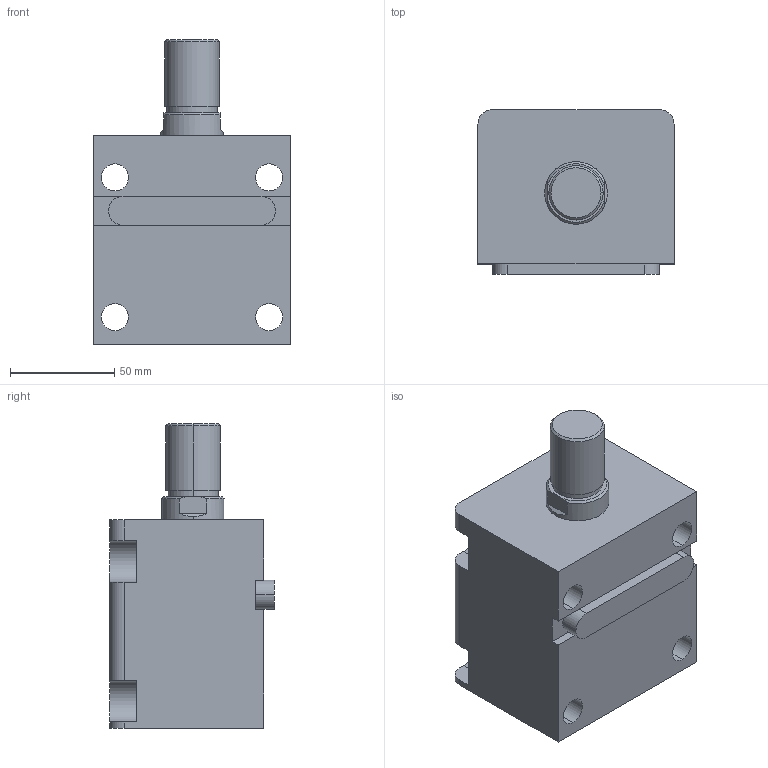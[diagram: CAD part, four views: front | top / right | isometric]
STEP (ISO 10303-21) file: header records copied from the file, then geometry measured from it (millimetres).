
FILE_DESCRIPTION (( 'STEP AP203' ), '1' );
FILE_NAME ('HTB-LA50-40W.STEP', '2019-10-09T07:09:16', ( '微软用户' ), ( '微软中国' ), 'SwSTEP 2.0', 'SolidWorks 2012', '' );
FILE_SCHEMA (( 'CONFIG_CONTROL_DESIGN' ));
Length unit declared in the file: millimetre
Products named in the file (4): HTB-LA50-40W活塞杆; HTB-LA50-40掛极; HTB-LA50-瑩; HTB-LA50-40W
Assembly tree (3 placements, depth 2):
  HTB-LA50-40W
    HTB-LA50-40掛极
    HTB-LA50-40W活塞杆
    HTB-LA50-瑩
Bounding box: 94 x 79 x 146 mm (x, y, z)
Volume: 620748.5 mm3; surface area: 95087.5 mm2
Topology: 3 solids, 3 shells, 90 faces, 219 edges, 144 vertices
Faces by surface type: plane 41, cylinder 37, cone 8, torus 4
Entity records: 3107 total; most frequent: DIRECTION 497, CARTESIAN_POINT 487, ORIENTED_EDGE 438, EDGE_CURVE 219, AXIS2_PLACEMENT_3D 190, VERTEX_POINT 144, VECTOR 117, LINE 117
